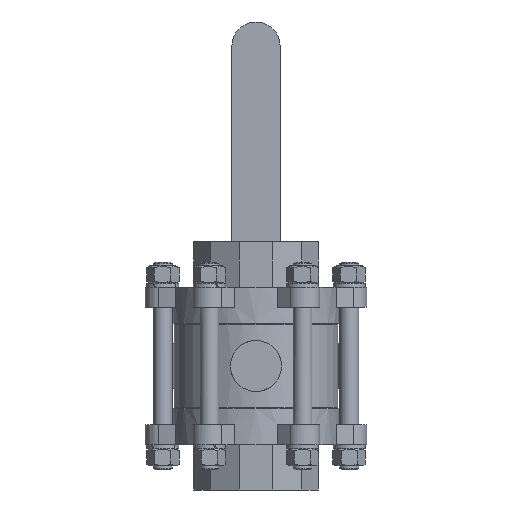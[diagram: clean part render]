
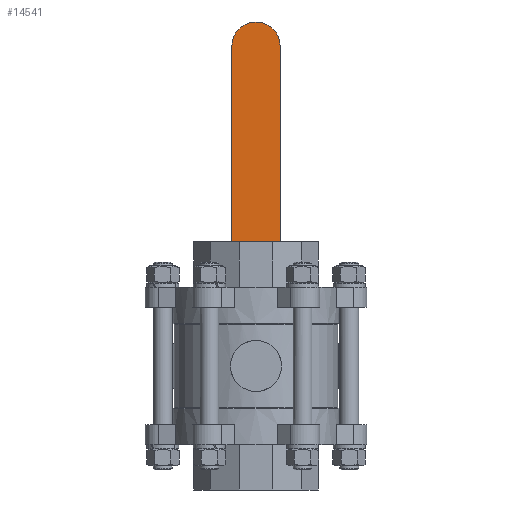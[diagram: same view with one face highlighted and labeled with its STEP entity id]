
A CAD part, front view. The second image highlights one B-rep face of the part: STEP entity #14541.
In plain terms, the highlighted planar face has unit normal (0, -1, 0).
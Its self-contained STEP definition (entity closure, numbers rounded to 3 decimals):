
#569=PLANE('',#15560);
#1372=FACE_OUTER_BOUND('',#2187,.T.);
#2187=EDGE_LOOP('',(#10321,#10322,#10323,#10324));
#3170=CIRCLE('',#15561,18.);
#3841=LINE('',#21663,#5066);
#3842=LINE('',#21665,#5067);
#3843=LINE('',#21666,#5068);
#5066=VECTOR('',#17510,10.);
#5067=VECTOR('',#17511,10.);
#5068=VECTOR('',#17512,10.);
#6406=VERTEX_POINT('',#21659);
#6407=VERTEX_POINT('',#21660);
#6408=VERTEX_POINT('',#21662);
#6409=VERTEX_POINT('',#21664);
#7929=EDGE_CURVE('',#6406,#6407,#3170,.T.);
#7930=EDGE_CURVE('',#6408,#6406,#3841,.T.);
#7931=EDGE_CURVE('',#6408,#6409,#3842,.T.);
#7932=EDGE_CURVE('',#6409,#6407,#3843,.T.);
#10321=ORIENTED_EDGE('',*,*,#7929,.F.);
#10322=ORIENTED_EDGE('',*,*,#7930,.F.);
#10323=ORIENTED_EDGE('',*,*,#7931,.T.);
#10324=ORIENTED_EDGE('',*,*,#7932,.T.);
#14541=ADVANCED_FACE('',(#1372),#569,.T.);
#15560=AXIS2_PLACEMENT_3D('',#21658,#17506,#17507);
#15561=AXIS2_PLACEMENT_3D('',#21661,#17508,#17509);
#17506=DIRECTION('center_axis',(0.,-1.,0.));
#17507=DIRECTION('ref_axis',(1.,0.,0.));
#17508=DIRECTION('center_axis',(0.,1.,0.));
#17509=DIRECTION('ref_axis',(0.707,0.,0.707));
#17510=DIRECTION('',(0.,0.,1.));
#17511=DIRECTION('',(1.,0.,0.));
#17512=DIRECTION('',(0.,0.,1.));
#21658=CARTESIAN_POINT('Origin',(-48.12,149.359,86.5));
#21659=CARTESIAN_POINT('',(-48.12,149.359,238.5));
#21660=CARTESIAN_POINT('',(-12.12,149.359,238.5));
#21661=CARTESIAN_POINT('Origin',(-30.12,149.359,238.5));
#21662=CARTESIAN_POINT('',(-48.12,149.359,86.5));
#21663=CARTESIAN_POINT('',(-48.12,149.359,86.5));
#21664=CARTESIAN_POINT('',(-12.12,149.359,86.5));
#21665=CARTESIAN_POINT('',(-48.12,149.359,86.5));
#21666=CARTESIAN_POINT('',(-12.12,149.359,86.5));
